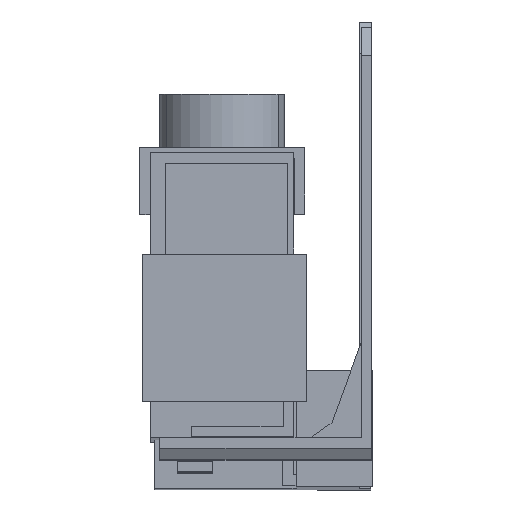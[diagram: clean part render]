
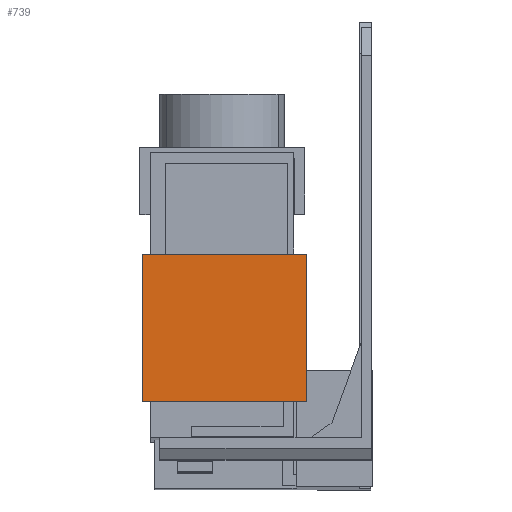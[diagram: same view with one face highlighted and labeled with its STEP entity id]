
A CAD part, front view. The second image highlights one B-rep face of the part: STEP entity #739.
In plain terms, the highlighted planar face has unit normal (0, -1, 0.003).
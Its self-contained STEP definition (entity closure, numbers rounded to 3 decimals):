
#110 = EDGE_CURVE ( 'NONE', #2151, #2150, #2605, .T. ) ;
#193 = AXIS2_PLACEMENT_3D ( 'NONE', #5009, #5015, #5016 ) ;
#255 = EDGE_CURVE ( 'NONE', #2150, #2149, #2786, .T. ) ;
#454 = EDGE_CURVE ( 'NONE', #2151, #2148, #3038, .T. ) ;
#611 = EDGE_CURVE ( 'NONE', #2148, #2149, #3276, .T. ) ;
#739 = ADVANCED_FACE ( 'NONE', ( #3461 ), #5006, .T. ) ;
#1299 = ORIENTED_EDGE ( 'NONE', *, *, #611, .T. ) ;
#1300 = ORIENTED_EDGE ( 'NONE', *, *, #255, .F. ) ;
#1301 = ORIENTED_EDGE ( 'NONE', *, *, #110, .F. ) ;
#1302 = ORIENTED_EDGE ( 'NONE', *, *, #454, .T. ) ;
#2148 = VERTEX_POINT ( 'NONE', #5519 ) ;
#2149 = VERTEX_POINT ( 'NONE', #5520 ) ;
#2150 = VERTEX_POINT ( 'NONE', #5521 ) ;
#2151 = VERTEX_POINT ( 'NONE', #5522 ) ;
#2352 = EDGE_LOOP ( 'NONE', ( #1299, #1300, #1301, #1302 ) ) ;
#2605 = LINE ( 'NONE', #3749, #2607 ) ;
#2607 = VECTOR ( 'NONE', #3764, 1000. ) ;
#2786 = LINE ( 'NONE', #4006, #2794 ) ;
#2794 = VECTOR ( 'NONE', #4009, 1000. ) ;
#3038 = LINE ( 'NONE', #4309, #3064 ) ;
#3064 = VECTOR ( 'NONE', #4322, 1000. ) ;
#3276 = LINE ( 'NONE', #4582, #3277 ) ;
#3277 = VECTOR ( 'NONE', #4583, 1000. ) ;
#3461 = FACE_OUTER_BOUND ( 'NONE', #2352, .T. ) ;
#3749 = CARTESIAN_POINT ( 'NONE',  ( -9.3, -31.509, -40.315 ) ) ;
#3764 = DIRECTION ( 'NONE',  ( -1., 0., 0. ) ) ;
#4006 = CARTESIAN_POINT ( 'NONE',  ( -32.7, -31.509, -40.315 ) ) ;
#4009 = DIRECTION ( 'NONE',  ( 0., 0.003, 1. ) ) ;
#4309 = CARTESIAN_POINT ( 'NONE',  ( -9.3, -31.509, -40.315 ) ) ;
#4322 = DIRECTION ( 'NONE',  ( 0., 0.003, 1. ) ) ;
#4582 = CARTESIAN_POINT ( 'NONE',  ( -9.3, -31.452, -19.316 ) ) ;
#4583 = DIRECTION ( 'NONE',  ( -1., 0., 0. ) ) ;
#5006 = PLANE ( 'NONE',  #193 ) ;
#5009 = CARTESIAN_POINT ( 'NONE',  ( -9.3, -31.509, -40.315 ) ) ;
#5015 = DIRECTION ( 'NONE',  ( 0., -1., 0.003 ) ) ;
#5016 = DIRECTION ( 'NONE',  ( 1., 0., 0. ) ) ;
#5519 = CARTESIAN_POINT ( 'NONE',  ( -9.3, -31.452, -19.316 ) ) ;
#5520 = CARTESIAN_POINT ( 'NONE',  ( -32.7, -31.452, -19.316 ) ) ;
#5521 = CARTESIAN_POINT ( 'NONE',  ( -32.7, -31.509, -40.315 ) ) ;
#5522 = CARTESIAN_POINT ( 'NONE',  ( -9.3, -31.509, -40.315 ) ) ;
